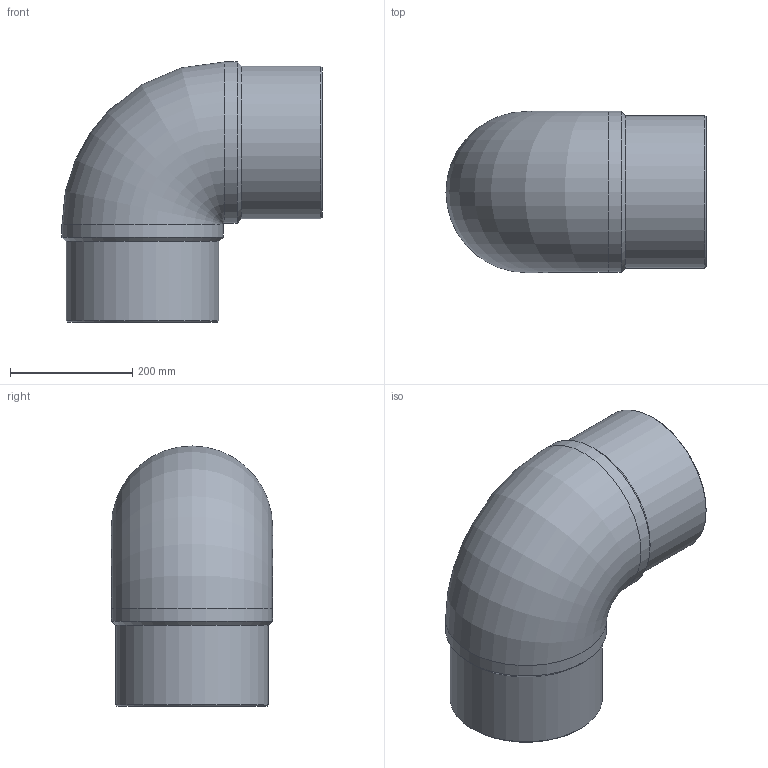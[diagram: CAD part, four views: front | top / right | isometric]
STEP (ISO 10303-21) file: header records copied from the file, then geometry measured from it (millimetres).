
FILE_DESCRIPTION(/* description */ ('Unknown'),/* implementation_level */ '2;1');
FILE_NAME(/* name */ 'G9P250G',/* time_stamp */ '2021-11-15T10:16:53+01:00',/* author */ ('Unknown'),/* organization */ ('Unknown'),/* preprocessor_version */ 'ST-DEVELOPER v16.7',/* originating_system */ 'Solid Edge',/* authorisation */ 'Unknown');
FILE_SCHEMA (('AUTOMOTIVE_DESIGN {1 0 10303 214 3 1 1}'));
Length unit declared in the file: millimetre
Products named in the file (1): G9P250G
Bounding box: 426 x 264 x 426 mm (x, y, z)
Volume: 11945536.5 mm3; surface area: 795182.1 mm2
Topology: 1 solids, 1 shells, 14 faces, 34 edges, 22 vertices
Faces by surface type: cylinder 6, cone 4, plane 2, torus 2
Full cylindrical faces by diameter (mm): 194.2 x2, 250 x2, 264 x2
Entity records: 378 total; most frequent: CARTESIAN_POINT 78, DIRECTION 60, ORIENTED_EDGE 38, AXIS2_PLACEMENT_3D 30, EDGE_LOOP 27, FACE_BOUND 27, EDGE_CURVE 19, VERTEX_POINT 18
